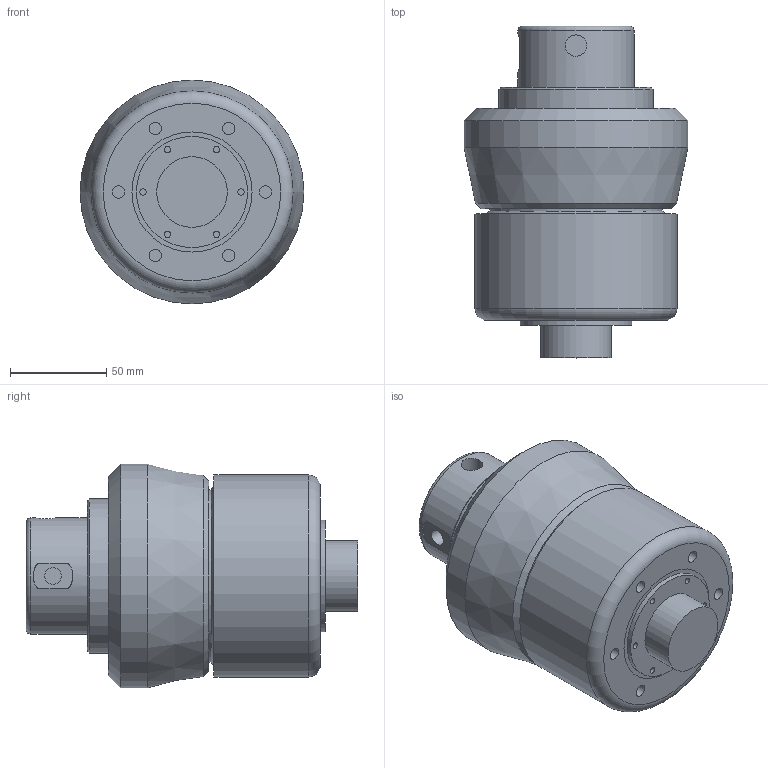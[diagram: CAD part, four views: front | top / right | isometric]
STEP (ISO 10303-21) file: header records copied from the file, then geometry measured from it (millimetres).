
FILE_DESCRIPTION (( 'STEP AP214' ), '1' );
FILE_NAME ('DBH030 TOP MOUNT.STEP', '2013-04-24T15:39:40', ( '' ), ( '' ), 'SwSTEP 2.0', 'SolidWorks 2012', '' );
FILE_SCHEMA (( 'AUTOMOTIVE_DESIGN' ));
Length unit declared in the file: inch
Products named in the file (1): DBH030 TOP MOUNT
Bounding box: 116.08 x 172.11 x 116.08 mm (x, y, z)
Volume: 1161882.3 mm3; surface area: 72335.4 mm2
Topology: 1 solids, 1 shells, 81 faces, 128 edges, 85 vertices
Faces by surface type: plane 38, cylinder 35, cone 6, torus 2
Full cylindrical faces by diameter (mm): 3.251 x18, 6.35 x6, 8.611 x1, 11.125 x1, 36.601 x1, 57.658 x1, 60.325 x1, 80.01 x1, 89.332 x1, 104.775 x1, 116.078 x1
Entity records: 1970 total; most frequent: CARTESIAN_POINT 369, DIRECTION 322, ORIENTED_EDGE 166, AXIS2_PLACEMENT_3D 160, EDGE_LOOP 158, FACE_OUTER_BOUND 116, EDGE_CURVE 83, VERTEX_POINT 81
